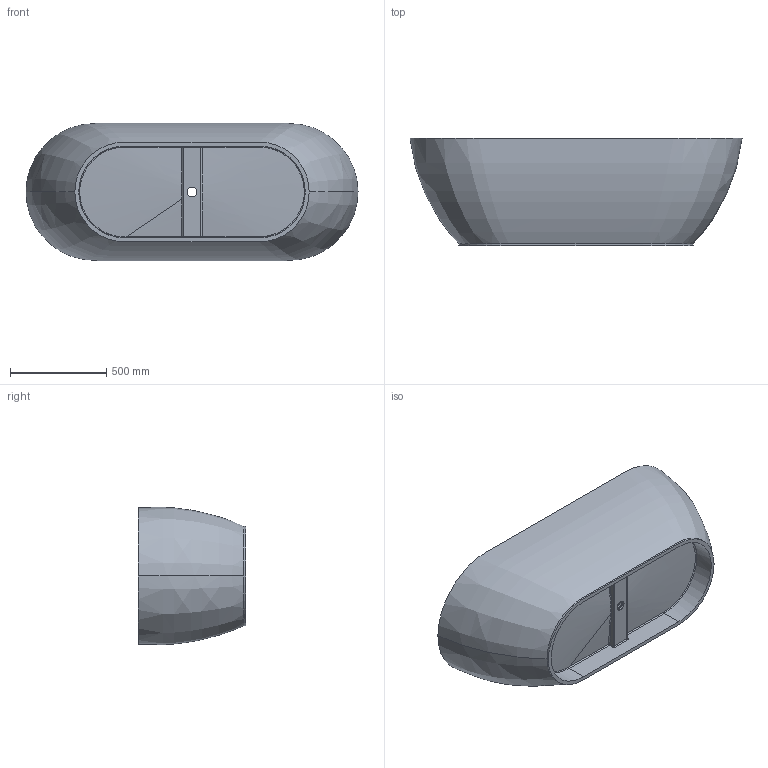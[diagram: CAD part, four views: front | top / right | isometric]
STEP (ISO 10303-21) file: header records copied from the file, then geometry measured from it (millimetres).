
FILE_DESCRIPTION (( 'STEP AP203' ), '1' );
FILE_NAME ('TC-S17M.STEP', '2017-05-07T12:06:05', ( '旮僅薊襠http://www.deepbbs.org' ), ( 'http://www.deepbbs.org' ), 'SwSTEP 2.0', 'SolidWorks 2016', '' );
FILE_SCHEMA (( 'CONFIG_CONTROL_DESIGN' ));
Length unit declared in the file: millimetre
Products named in the file (1): TC-S17M
Bounding box: 1725.5 x 558.1 x 715.31 mm (x, y, z)
Volume: 71636983.5 mm3; surface area: 5681779.1 mm2
Topology: 1 solids, 1 shells, 73 faces, 187 edges, 118 vertices
Faces by surface type: cylinder 23, bspline 21, plane 19, sphere 4, torus 4, cone 2
Entity records: 10300 total; most frequent: CARTESIAN_POINT 8570, ORIENTED_EDGE 374, DIRECTION 308, EDGE_CURVE 187, AXIS2_PLACEMENT_3D 122, VERTEX_POINT 118, EDGE_LOOP 79, ADVANCED_FACE 73
